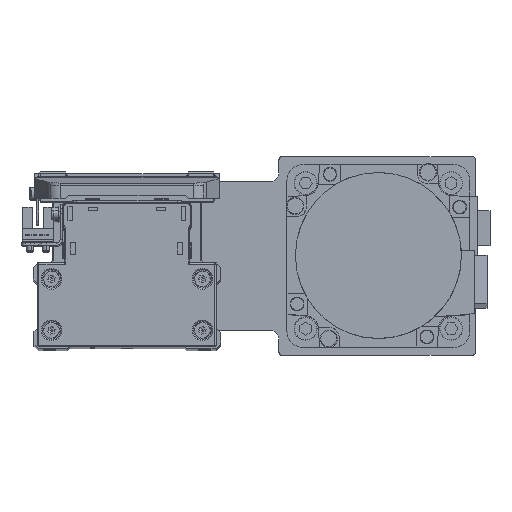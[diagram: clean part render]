
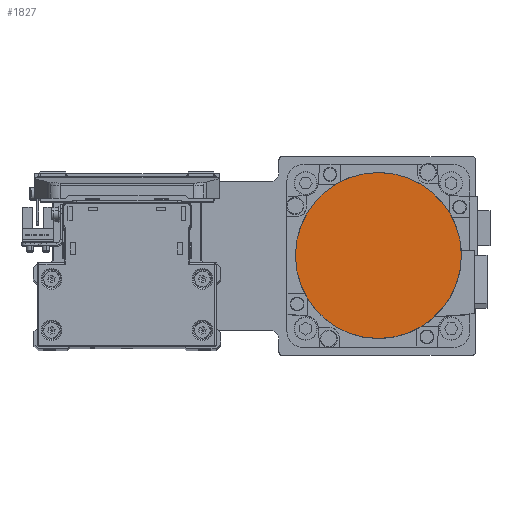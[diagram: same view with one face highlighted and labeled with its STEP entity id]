
A CAD part, top view. The second image highlights one B-rep face of the part: STEP entity #1827.
In plain terms, the highlighted planar face has unit normal (0, 0, 1) as drawn and (0, 0, -1) by its records, which use the part's own axes.
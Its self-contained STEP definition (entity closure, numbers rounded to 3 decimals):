
#1193 = CARTESIAN_POINT ( 'NONE',  ( 0., 0., -122.2 ) ) ;
#1827 = ADVANCED_FACE ( 'NONE', ( #25866 ), #38010, .F. ) ;
#2896 = DIRECTION ( 'NONE',  ( 0., -1., 0. ) ) ;
#5461 = AXIS2_PLACEMENT_3D ( 'NONE', #10727, #22857, #35013 ) ;
#8387 = AXIS2_PLACEMENT_3D ( 'NONE', #18018, #30176, #2896 ) ;
#10727 = CARTESIAN_POINT ( 'NONE',  ( 0., 0., -122.2 ) ) ;
#12320 = VERTEX_POINT ( 'NONE', #36199 ) ;
#13317 = DIRECTION ( 'NONE',  ( 0., 0., 1. ) ) ;
#13949 = CARTESIAN_POINT ( 'NONE',  ( 0., 36.3, -122.2 ) ) ;
#14035 = EDGE_CURVE ( 'NONE', #12320, #31535, #25558, .T. ) ;
#18018 = CARTESIAN_POINT ( 'NONE',  ( 0., 0., -122.2 ) ) ;
#22182 = ORIENTED_EDGE ( 'NONE', *, *, #14035, .F. ) ;
#22857 = DIRECTION ( 'NONE',  ( 0., 0., 1. ) ) ;
#23173 = CIRCLE ( 'NONE', #28253, 36.3 ) ;
#24678 = EDGE_LOOP ( 'NONE', ( #33124, #22182 ) ) ;
#25482 = DIRECTION ( 'NONE',  ( 0., 1., 0. ) ) ;
#25558 = CIRCLE ( 'NONE', #8387, 36.3 ) ;
#25866 = FACE_OUTER_BOUND ( 'NONE', #24678, .T. ) ;
#28253 = AXIS2_PLACEMENT_3D ( 'NONE', #1193, #13317, #25482 ) ;
#30176 = DIRECTION ( 'NONE',  ( 0., 0., 1. ) ) ;
#31535 = VERTEX_POINT ( 'NONE', #13949 ) ;
#33124 = ORIENTED_EDGE ( 'NONE', *, *, #37464, .F. ) ;
#35013 = DIRECTION ( 'NONE',  ( 1., 0., 0. ) ) ;
#36199 = CARTESIAN_POINT ( 'NONE',  ( 0., -36.3, -122.2 ) ) ;
#37464 = EDGE_CURVE ( 'NONE', #31535, #12320, #23173, .T. ) ;
#38010 = PLANE ( 'NONE',  #5461 ) ;
